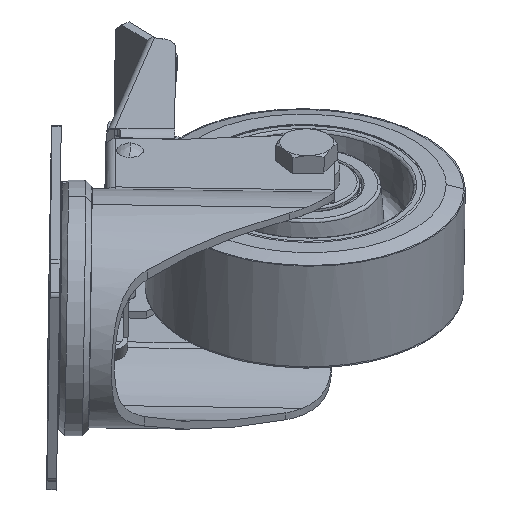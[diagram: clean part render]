
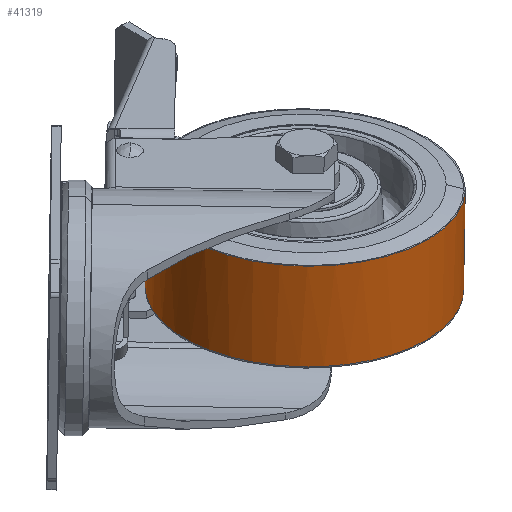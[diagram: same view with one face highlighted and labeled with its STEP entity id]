
A CAD part, left-side view. The second image highlights one B-rep face of the part: STEP entity #41319.
In plain terms, the highlighted cylindrical face has radius 50 mm (diameter 100 mm), a partial arc.
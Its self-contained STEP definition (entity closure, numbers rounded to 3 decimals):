
#929 = CARTESIAN_POINT ( 'NONE',  ( -76.86, -30.571, 34.558 ) ) ;
#2688 = ORIENTED_EDGE ( 'NONE', *, *, #4246, .T. ) ;
#3585 = CYLINDRICAL_SURFACE ( 'NONE', #38104, 50. ) ;
#4246 = EDGE_CURVE ( 'NONE', #13237, #5810, #13461, .T. ) ;
#4775 = EDGE_CURVE ( 'NONE', #41462, #13237, #33613, .T. ) ;
#5077 = EDGE_CURVE ( 'NONE', #27809, #41462, #38942, .T. ) ;
#5655 = VECTOR ( 'NONE', #42588, 1000. ) ;
#5810 = VERTEX_POINT ( 'NONE', #13454 ) ;
#6453 = CARTESIAN_POINT ( 'NONE',  ( -94.805, -31.093, 66.113 ) ) ;
#6507 = DIRECTION ( 'NONE',  ( 0.014, -1., -0.008 ) ) ;
#6599 = DIRECTION ( 'NONE',  ( 0.494, 0.014, -0.869 ) ) ;
#6797 = ORIENTED_EDGE ( 'NONE', *, *, #4775, .T. ) ;
#6832 = EDGE_CURVE ( 'NONE', #27809, #5810, #31905, .T. ) ;
#10038 = CARTESIAN_POINT ( 'NONE',  ( -77.579, 19.422, 34.977 ) ) ;
#11124 = CARTESIAN_POINT ( 'NONE',  ( -94.086, -81.086, 65.695 ) ) ;
#11360 = ORIENTED_EDGE ( 'NONE', *, *, #5077, .T. ) ;
#11425 = CARTESIAN_POINT ( 'NONE',  ( -76.14, -80.564, 34.14 ) ) ;
#13237 = VERTEX_POINT ( 'NONE', #11124 ) ;
#13454 = CARTESIAN_POINT ( 'NONE',  ( -95.524, 18.9, 66.532 ) ) ;
#13461 = CIRCLE ( 'NONE', #38653, 50. ) ;
#20988 = DIRECTION ( 'NONE',  ( 0.014, -1., -0.008 ) ) ;
#27809 = VERTEX_POINT ( 'NONE', #10038 ) ;
#28869 = CARTESIAN_POINT ( 'NONE',  ( -76.14, -80.564, 34.14 ) ) ;
#28978 = CARTESIAN_POINT ( 'NONE',  ( -78.985, -80.591, 32.522 ) ) ;
#29211 = CARTESIAN_POINT ( 'NONE',  ( -81.833, -80.296, 30.906 ) ) ;
#29301 = CARTESIAN_POINT ( 'NONE',  ( -90.18, -78.145, 26.195 ) ) ;
#29362 = CARTESIAN_POINT ( 'NONE',  ( -95.472, -75.691, 23.226 ) ) ;
#29419 = CARTESIAN_POINT ( 'NONE',  ( -98.015, -74.166, 21.806 ) ) ;
#29422 = ORIENTED_EDGE ( 'NONE', *, *, #6832, .F. ) ;
#29466 = EDGE_LOOP ( 'NONE', ( #29422, #11360, #6797, #2688 ) ) ;
#29515 = CARTESIAN_POINT ( 'NONE',  ( -102.797, -70.576, 19.145 ) ) ;
#29574 = CARTESIAN_POINT ( 'NONE',  ( -105.036, -68.511, 17.906 ) ) ;
#29605 = CARTESIAN_POINT ( 'NONE',  ( -109.125, -63.923, 15.656 ) ) ;
#29662 = CARTESIAN_POINT ( 'NONE',  ( -110.975, -61.399, 14.646 ) ) ;
#29722 = CARTESIAN_POINT ( 'NONE',  ( -117.867, -47.076, 10.964 ) ) ;
#29756 = CARTESIAN_POINT ( 'NONE',  ( -114.214, -55.988, 12.894 ) ) ;
#29816 = CARTESIAN_POINT ( 'NONE',  ( -115.603, -53.101, 12.152 ) ) ;
#29876 = CARTESIAN_POINT ( 'NONE',  ( -118.742, -43.938, 10.518 ) ) ;
#29916 = CARTESIAN_POINT ( 'NONE',  ( -119.944, -37.53, 9.941 ) ) ;
#30162 = CARTESIAN_POINT ( 'NONE',  ( -120.271, -34.261, 9.809 ) ) ;
#30336 = CARTESIAN_POINT ( 'NONE',  ( -120.132, -24.442, 10.05 ) ) ;
#30449 = CARTESIAN_POINT ( 'NONE',  ( -120.365, -27.717, 9.863 ) ) ;
#30586 = CARTESIAN_POINT ( 'NONE',  ( -119.115, -18.013, 10.735 ) ) ;
#30736 = CARTESIAN_POINT ( 'NONE',  ( -118.33, -14.859, 11.234 ) ) ;
#30891 = CARTESIAN_POINT ( 'NONE',  ( -116.24, -8.792, 12.523 ) ) ;
#31036 = DIRECTION ( 'NONE',  ( -0.494, -0.014, 0.869 ) ) ;
#31180 = CARTESIAN_POINT ( 'NONE',  ( -114.935, -5.88, 13.313 ) ) ;
#31231 = CARTESIAN_POINT ( 'NONE',  ( -103.941, 8.924, 19.811 ) ) ;
#31334 = CARTESIAN_POINT ( 'NONE',  ( -111.853, -0.408, 15.157 ) ) ;
#31383 = CARTESIAN_POINT ( 'NONE',  ( -106.12, 6.817, 18.536 ) ) ;
#31481 = CARTESIAN_POINT ( 'NONE',  ( -96.765, 14.179, 23.979 ) ) ;
#31524 = CARTESIAN_POINT ( 'NONE',  ( -99.263, 12.605, 22.532 ) ) ;
#31566 = CARTESIAN_POINT ( 'NONE',  ( -77.579, 19.422, 34.977 ) ) ;
#31607 = CARTESIAN_POINT ( 'NONE',  ( -91.545, 16.734, 26.989 ) ) ;
#31661 = CARTESIAN_POINT ( 'NONE',  ( -110.076, 2.151, 16.209 ) ) ;
#31694 = FACE_OUTER_BOUND ( 'NONE', #29466, .T. ) ;
#31756 = CARTESIAN_POINT ( 'NONE',  ( -83.263, 19.045, 31.738 ) ) ;
#31905 = LINE ( 'NONE', #31566, #33310 ) ;
#32045 = CARTESIAN_POINT ( 'NONE',  ( -80.423, 19.395, 33.359 ) ) ;
#32094 = CARTESIAN_POINT ( 'NONE',  ( -77.579, 19.422, 34.977 ) ) ;
#32126 = CARTESIAN_POINT ( 'NONE',  ( -88.824, 17.715, 28.553 ) ) ;
#33310 = VECTOR ( 'NONE', #31036, 1000. ) ;
#33613 = LINE ( 'NONE', #42324, #5655 ) ;
#36534 = CARTESIAN_POINT ( 'NONE',  ( -87.431, -79.073, 27.743 ) ) ;
#38104 = AXIS2_PLACEMENT_3D ( 'NONE', #929, #41650, #20988 ) ;
#38653 = AXIS2_PLACEMENT_3D ( 'NONE', #6453, #6599, #6507 ) ;
#38942 = B_SPLINE_CURVE_WITH_KNOTS ( 'NONE', 3,
 ( #32094, #32045, #31756, #32126, #31607, #31481, #31524, #31231, #31383, #31661, #31334, #31180, #30891, #30736, #30586, #30336, #30449, #30162, #29916, #29876, #29722, #29816, #29756, #29662, #29605, #29574, #29515, #29419, #29362, #29301, #36534, #29211, #28978, #28869 ),
 .UNSPECIFIED., .F., .F.,
 ( 4, 2, 2, 2, 2, 2, 2, 2, 2, 2, 2, 2, 2, 2, 2, 2, 4 ),
 ( 0., 0.063, 0.125, 0.188, 0.25, 0.313, 0.375, 0.438, 0.5, 0.563, 0.625, 0.688, 0.75, 0.813, 0.875, 0.938, 1. ),
 .UNSPECIFIED. ) ;
#41319 = ADVANCED_FACE ( 'NONE', ( #31694 ), #3585, .T. ) ;
#41462 = VERTEX_POINT ( 'NONE', #11425 ) ;
#41650 = DIRECTION ( 'NONE',  ( -0.494, -0.014, 0.869 ) ) ;
#42324 = CARTESIAN_POINT ( 'NONE',  ( -76.14, -80.564, 34.14 ) ) ;
#42588 = DIRECTION ( 'NONE',  ( -0.494, -0.014, 0.869 ) ) ;
